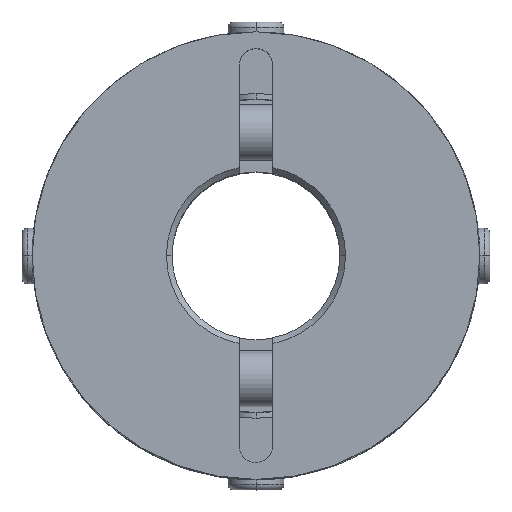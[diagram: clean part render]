
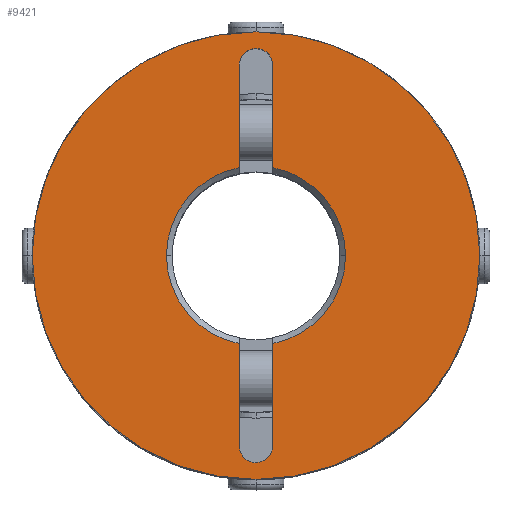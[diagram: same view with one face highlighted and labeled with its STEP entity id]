
A CAD part, top view. The second image highlights one B-rep face of the part: STEP entity #9421.
In plain terms, the highlighted planar face has unit normal (0, 0, 1).
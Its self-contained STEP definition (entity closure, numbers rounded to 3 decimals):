
#993=CARTESIAN_POINT('',(-20.0,0.,20.0));
#994=VERTEX_POINT('',#993);
#1001=CARTESIAN_POINT('',(20.0,0.0,20.0));
#1002=VERTEX_POINT('',#1001);
#1003=CARTESIAN_POINT('',(0.0,0.0,20.0));
#1004=DIRECTION('',(0.0,0.0,-1.0));
#1005=DIRECTION('',(1.0,0.0,0.0));
#1006=AXIS2_PLACEMENT_3D('',#1003,#1004,#1005);
#1007=CIRCLE('',#1006,20.0);
#1008=EDGE_CURVE('',#994,#1002,#1007,.T.);
#1319=CARTESIAN_POINT('',(-1.061,18.061,20.0));
#1320=VERTEX_POINT('',#1319);
#1336=CARTESIAN_POINT('',(1.5,17.,20.0));
#1337=VERTEX_POINT('',#1336);
#1344=CARTESIAN_POINT('',(0.,17.,20.0));
#1345=DIRECTION('',(0.0,0.0,1.));
#1346=DIRECTION('',(0.707,0.707,0.0));
#1347=AXIS2_PLACEMENT_3D('',#1344,#1345,#1346);
#1348=CIRCLE('',#1347,1.5);
#1349=EDGE_CURVE('',#1337,#1320,#1348,.T.);
#1361=CARTESIAN_POINT('',(1.061,-18.061,20.0));
#1362=VERTEX_POINT('',#1361);
#1378=CARTESIAN_POINT('',(-1.5,-17.,20.0));
#1379=VERTEX_POINT('',#1378);
#1386=CARTESIAN_POINT('',(0.0,-17.,20.0));
#1387=DIRECTION('',(0.0,0.0,1.0));
#1388=DIRECTION('',(-0.707,-0.707,0.0));
#1389=AXIS2_PLACEMENT_3D('',#1386,#1387,#1388);
#1390=CIRCLE('',#1389,1.5);
#1391=EDGE_CURVE('',#1379,#1362,#1390,.T.);
#1401=CARTESIAN_POINT('',(-8.0,0.,20.0));
#1402=VERTEX_POINT('',#1401);
#1409=CARTESIAN_POINT('',(-1.5,-7.858,20.0));
#1410=VERTEX_POINT('',#1409);
#1411=CARTESIAN_POINT('',(0.0,0.0,20.0));
#1412=DIRECTION('',(0.0,0.0,1.0));
#1413=DIRECTION('',(-1.0,0.0,0.0));
#1414=AXIS2_PLACEMENT_3D('',#1411,#1412,#1413);
#1415=CIRCLE('',#1414,8.0);
#1416=EDGE_CURVE('',#1402,#1410,#1415,.T.);
#1440=CARTESIAN_POINT('',(8.0,0.,20.0));
#1441=VERTEX_POINT('',#1440);
#1448=CARTESIAN_POINT('',(1.5,7.858,20.0));
#1449=VERTEX_POINT('',#1448);
#1450=CARTESIAN_POINT('',(0.0,0.0,20.0));
#1451=DIRECTION('',(0.0,0.0,1.0));
#1452=DIRECTION('',(1.0,0.0,0.0));
#1453=AXIS2_PLACEMENT_3D('',#1450,#1451,#1452);
#1454=CIRCLE('',#1453,8.0);
#1455=EDGE_CURVE('',#1441,#1449,#1454,.T.);
#9226=CARTESIAN_POINT('',(-1.5,17.,20.0));
#9227=VERTEX_POINT('',#9226);
#9234=CARTESIAN_POINT('',(-1.5,7.858,20.0));
#9235=VERTEX_POINT('',#9234);
#9236=CARTESIAN_POINT('',(-1.5,7.858,20.0));
#9237=DIRECTION('',(0.0,1.0,0.0));
#9238=VECTOR('',#9237,9.142);
#9239=LINE('',#9236,#9238);
#9240=EDGE_CURVE('',#9235,#9227,#9239,.T.);
#9315=CARTESIAN_POINT('',(1.5,17.,20.0));
#9316=DIRECTION('',(0.0,-1.0,0.0));
#9317=VECTOR('',#9316,9.142);
#9318=LINE('',#9315,#9317);
#9319=EDGE_CURVE('',#1337,#1449,#9318,.T.);
#9337=CARTESIAN_POINT('',(1.5,-7.858,20.0));
#9338=VERTEX_POINT('',#9337);
#9352=CARTESIAN_POINT('',(0.0,0.0,20.0));
#9353=DIRECTION('',(0.0,0.0,1.0));
#9354=DIRECTION('',(1.0,0.0,0.0));
#9355=AXIS2_PLACEMENT_3D('',#9352,#9353,#9354);
#9356=CIRCLE('',#9355,8.0);
#9357=EDGE_CURVE('',#9338,#1441,#9356,.T.);
#9362=CARTESIAN_POINT('',(1.818,0.,20.0));
#9363=DIRECTION('',(0.0,0.0,1.0));
#9364=DIRECTION('',(1.0,0.0,0.0));
#9365=AXIS2_PLACEMENT_3D('',#9362,#9363,#9364);
#9366=PLANE('',#9365);
#9367=CARTESIAN_POINT('',(0.0,0.0,20.0));
#9368=DIRECTION('',(0.0,0.0,-1.0));
#9369=DIRECTION('',(1.0,0.0,0.0));
#9370=AXIS2_PLACEMENT_3D('',#9367,#9368,#9369);
#9371=CIRCLE('',#9370,20.0);
#9372=EDGE_CURVE('',#1002,#994,#9371,.T.);
#9373=ORIENTED_EDGE('',*,*,#9372,.F.);
#9374=ORIENTED_EDGE('',*,*,#1008,.F.);
#9375=EDGE_LOOP('',(#9373,#9374));
#9376=FACE_OUTER_BOUND('',#9375,.T.);
#9377=ORIENTED_EDGE('',*,*,#9357,.F.);
#9378=CARTESIAN_POINT('',(1.5,-17.,20.0));
#9379=VERTEX_POINT('',#9378);
#9380=CARTESIAN_POINT('',(1.5,-7.858,20.0));
#9381=DIRECTION('',(0.0,-1.0,0.0));
#9382=VECTOR('',#9381,9.142);
#9383=LINE('',#9380,#9382);
#9384=EDGE_CURVE('',#9338,#9379,#9383,.T.);
#9385=ORIENTED_EDGE('',*,*,#9384,.T.);
#9386=CARTESIAN_POINT('',(0.0,-17.,20.0));
#9387=DIRECTION('',(0.0,0.0,1.0));
#9388=DIRECTION('',(-0.707,-0.707,0.0));
#9389=AXIS2_PLACEMENT_3D('',#9386,#9387,#9388);
#9390=CIRCLE('',#9389,1.5);
#9391=EDGE_CURVE('',#1362,#9379,#9390,.T.);
#9392=ORIENTED_EDGE('',*,*,#9391,.F.);
#9393=ORIENTED_EDGE('',*,*,#1391,.F.);
#9394=CARTESIAN_POINT('',(-1.5,-17.,20.0));
#9395=DIRECTION('',(0.0,1.0,0.0));
#9396=VECTOR('',#9395,9.142);
#9397=LINE('',#9394,#9396);
#9398=EDGE_CURVE('',#1379,#1410,#9397,.T.);
#9399=ORIENTED_EDGE('',*,*,#9398,.T.);
#9400=ORIENTED_EDGE('',*,*,#1416,.F.);
#9401=CARTESIAN_POINT('',(0.0,0.0,20.0));
#9402=DIRECTION('',(0.0,0.0,1.0));
#9403=DIRECTION('',(-1.0,0.0,0.0));
#9404=AXIS2_PLACEMENT_3D('',#9401,#9402,#9403);
#9405=CIRCLE('',#9404,8.0);
#9406=EDGE_CURVE('',#9235,#1402,#9405,.T.);
#9407=ORIENTED_EDGE('',*,*,#9406,.F.);
#9408=ORIENTED_EDGE('',*,*,#9240,.T.);
#9409=CARTESIAN_POINT('',(0.,17.,20.0));
#9410=DIRECTION('',(0.0,0.0,1.));
#9411=DIRECTION('',(0.707,0.707,0.0));
#9412=AXIS2_PLACEMENT_3D('',#9409,#9410,#9411);
#9413=CIRCLE('',#9412,1.5);
#9414=EDGE_CURVE('',#1320,#9227,#9413,.T.);
#9415=ORIENTED_EDGE('',*,*,#9414,.F.);
#9416=ORIENTED_EDGE('',*,*,#1349,.F.);
#9417=ORIENTED_EDGE('',*,*,#9319,.T.);
#9418=ORIENTED_EDGE('',*,*,#1455,.F.);
#9419=EDGE_LOOP('',(#9377,#9385,#9392,#9393,#9399,#9400,#9407,#9408,#9415,#9416,#9417,#9418));
#9420=FACE_BOUND('',#9419,.T.);
#9421=ADVANCED_FACE('',(#9376,#9420),#9366,.T.);
